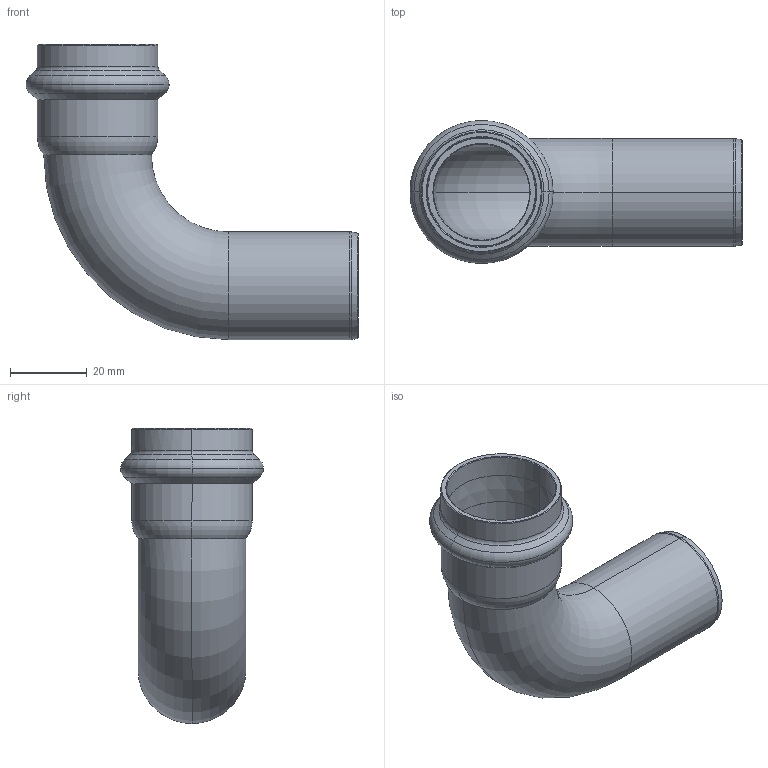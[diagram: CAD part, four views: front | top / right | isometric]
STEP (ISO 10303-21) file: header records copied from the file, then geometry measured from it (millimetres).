
FILE_DESCRIPTION(('CoCreate Modeling STEP Export'),'2;1');
FILE_NAME('8001VW28.stp','2013-01-29T13:58:29',(''),(''),'CoCreate Modeling STEP processor for AP214 (Solid Model)','CoCreate Modeling 17.00A 17-Jun-2010 (C) Parametric Technology GmbH','');
FILE_SCHEMA(('AUTOMOTIVE_DESIGN { 1 0 10303 214 1 1 1 1 }'));
Length unit declared in the file: millimetre
Products named in the file (2): 8001VW28
Assembly tree (1 placements, depth 2):
  8001VW28
    8001VW28
Bounding box: 86.3 x 37.2 x 76.74 mm (x, y, z)
Volume: 16679 mm3; surface area: 20737.5 mm2
Topology: 1 solids, 1 shells, 54 faces, 125 edges, 75 vertices
Faces by surface type: torus 20, cone 16, cylinder 14, plane 4
Entity records: 1855 total; most frequent: CARTESIAN_POINT 778, ORIENTED_EDGE 250, DIRECTION 190, EDGE_CURVE 125, AXIS2_PLACEMENT_3D 80, VERTEX_POINT 75, EDGE_LOOP 58, FACE_OUTER_BOUND 54
